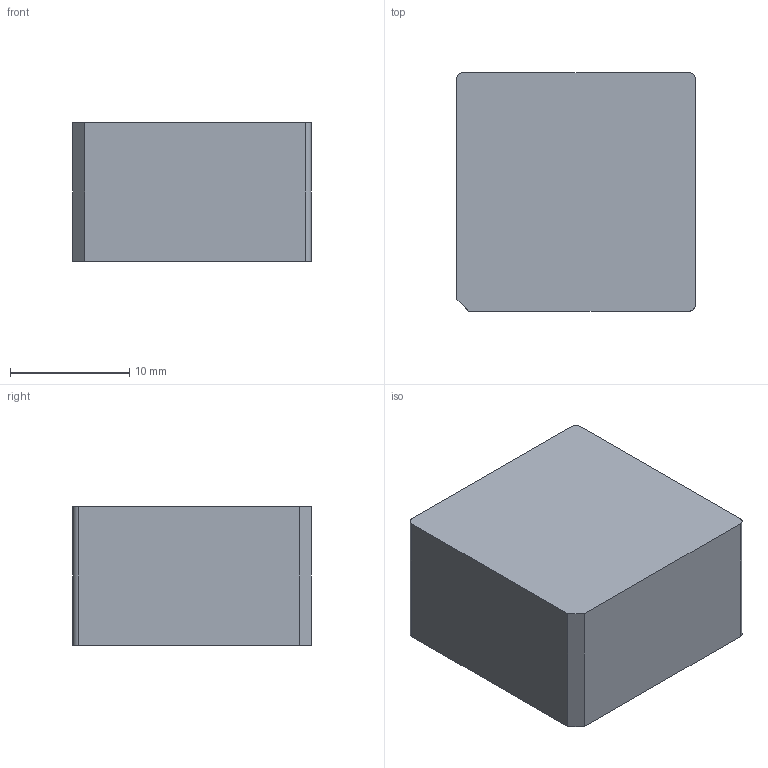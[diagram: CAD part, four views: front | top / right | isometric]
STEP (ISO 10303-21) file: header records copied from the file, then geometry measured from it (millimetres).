
FILE_DESCRIPTION(('FreeCAD Model'),'2;1');
FILE_NAME('Open CASCADE Shape Model','2026-01-30T10:33:49',('Author'),( ''),'Open CASCADE STEP processor 7.8','FreeCAD','Unknown');
FILE_SCHEMA(('AUTOMOTIVE_DESIGN { 1 0 10303 214 1 1 1 1 }'));
Length unit declared in the file: millimetre
Products named in the file (1): Body
Bounding box: 20 x 20 x 11.6 mm (x, y, z)
Volume: 4632.3 mm3; surface area: 1712.4 mm2
Topology: 1 solids, 1 shells, 10 faces, 24 edges, 16 vertices
Faces by surface type: plane 7, cylinder 3
Entity records: 316 total; most frequent: DIRECTION 52, CARTESIAN_POINT 51, ORIENTED_EDGE 48, EDGE_CURVE 24, LINE 18, VECTOR 18, AXIS2_PLACEMENT_3D 17, VERTEX_POINT 16
